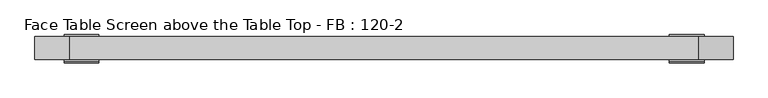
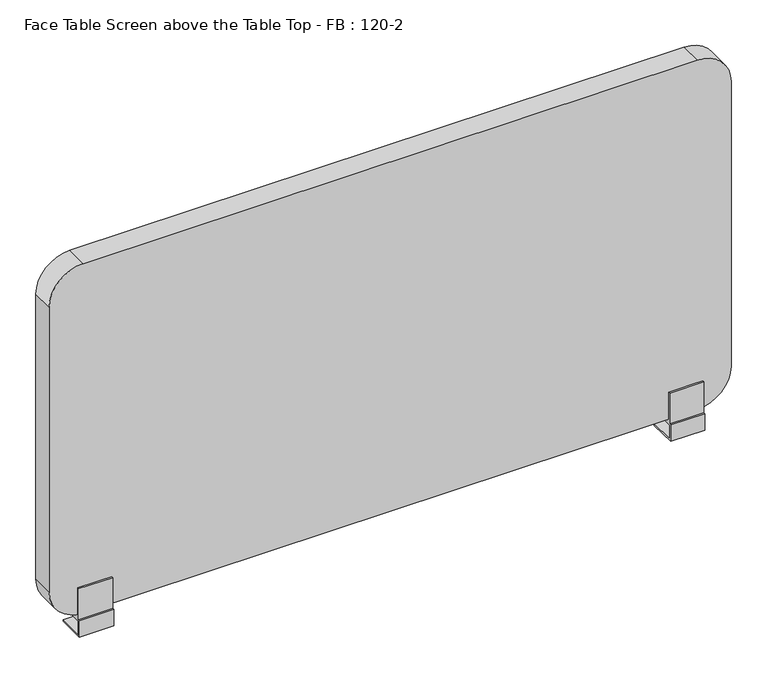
"""IFC4 building model written with IfcOpenShell, lengths in millimetres: furniture geometry, Face Table Screen above the Table Top - FB : 120-2."""

from ifc_helpers import new_model, si_unit, point, frame, frame_2d, origin, place, context, project, spatial, polyline, circle_curve, trimmed, segment, composite_curve, outline, extrude, source, transform, mapped, element, save
from ifc_brep_helpers import plane_surface, cylinder_surface, advanced_brep


def face_table_screen_above_the_table_top_fb_120_2_7e4b77b2(model_context):
    return source(origin(), model_context, "Body", "SolidModel", [
        advanced_brep(
        [(-525.0, 20.0, -39.4406633), (-515.0, 20.0, -39.4406633), (-515.0, 20.0, -28.0), (-525.0, 20.0, -28.0), (-550.0, 43.0, -25.0), (-550.0, -3.0, -25.0), (-490.0, -3.0, -25.0), (-490.0, 43.0, -25.0), (-550.0, -3.0, 0.0), (-550.0, 43.0, -28.0), (-550.0, -6.0, -28.0), (-550.0, -6.0, 3.0), (-550.0, -3.0, 3.0), (-550.0, -3.0, 60.0), (-550.0, 0.0, 60.0), (-550.0, 0.0, 10.0), (-550.0, 40.0, 10.0), (-550.0, 40.0, 60.0), (-550.0, 43.0, 60.0), (-550.0, 43.0, 0.0), (-490.0, -3.0, 0.0), (-490.0, 43.0, 0.0), (-490.0, 43.0, 60.0), (-490.0, 40.0, 60.0), (-490.0, 40.0, 10.0), (-490.0, 0.0, 10.0), (-490.0, 0.0, 60.0), (-490.0, -3.0, 60.0), (-490.0, -3.0, 3.0), (-490.0, -6.0, 3.0), (-490.0, -6.0, -28.0), (-490.0, 43.0, -28.0)],
        [
            (0, 1, circle_curve(frame((-520.0, 20.0, -39.4406633), z_axis=(0.0, 0.0, -1.0), x_axis=(1.0, 0.0, 0.0)), 5.0)),
            (1, 0, circle_curve(frame((-520.0, 20.0, -39.4406633), z_axis=(0.0, 0.0, -1.0), x_axis=(1.0, 0.0, 0.0)), 5.0)),
            (1, 2),
            (2, 3, circle_curve(frame((-520.0, 20.0, -28.0), z_axis=(0.0, 0.0, -1.0), x_axis=(1.0, 0.0, 0.0)), 5.0)),
            (3, 0),
            (3, 2, circle_curve(frame((-520.0, 20.0, -28.0), z_axis=(0.0, 0.0, -1.0), x_axis=(1.0, 0.0, 0.0)), 5.0)),
            (4, 5),
            (5, 6),
            (6, 7),
            (7, 4),
            (8, 5),
            (4, 9),
            (9, 10),
            (10, 11),
            (11, 12),
            (12, 13),
            (13, 14),
            (14, 15),
            (15, 16),
            (16, 17),
            (17, 18),
            (18, 19),
            (19, 8),
            (20, 21),
            (21, 22),
            (22, 23),
            (23, 24),
            (24, 25),
            (25, 26),
            (26, 27),
            (27, 28),
            (28, 29),
            (29, 30),
            (30, 31),
            (31, 7),
            (6, 20),
            (19, 21),
            (20, 8),
            (18, 22),
            (17, 23),
            (16, 24),
            (15, 25),
            (14, 26),
            (13, 27),
            (12, 28),
            (11, 29),
            (10, 30),
            (9, 31),
        ],
        [
            plane_surface(frame((-515.0, 20.0, -39.4406633), z_axis=(0.0, 0.0, -1.0), x_axis=(0.0, -1.0, 0.0))),
            cylinder_surface(frame((-520.0, 20.0, -39.4406633), z_axis=(0.0, 0.0, 1.0), x_axis=(1.0, 0.0, 0.0)), 5.0),
            plane_surface(frame((-515.0, 20.0, -25.0), z_axis=(0.0, 0.0, 1.0), x_axis=(0.0, 1.0, 0.0))),
            plane_surface(frame((-550.0, 43.0, 0.0), z_axis=(-1.0, 0.0, 0.0), x_axis=(0.0, -1.0, 0.0))),
            plane_surface(frame((-490.0, 43.0, 0.0), z_axis=(1.0, 0.0, 0.0), x_axis=(0.0, 1.0, 0.0))),
            plane_surface(frame((-490.0, -3.0, 0.0), z_axis=(0.0, 0.0, -1.0), x_axis=(-1.0, 0.0, 0.0))),
            plane_surface(frame((-490.0, 43.0, 0.0), z_axis=(0.0, 1.0, 0.0), x_axis=(-1.0, 0.0, 0.0))),
            plane_surface(frame((-490.0, 43.0, 60.0), z_axis=(0.0, 0.0, 1.0), x_axis=(-1.0, 0.0, 0.0))),
            plane_surface(frame((-490.0, 40.0, 60.0), z_axis=(0.0, -1.0, 0.0), x_axis=(-1.0, 0.0, 0.0))),
            plane_surface(frame((-490.0, 40.0, 10.0), z_axis=(0.0, 0.0, 1.0), x_axis=(-1.0, 0.0, 0.0))),
            plane_surface(frame((-490.0, 0.0, 10.0), z_axis=(0.0, 1.0, 0.0), x_axis=(-1.0, 0.0, 0.0))),
            plane_surface(frame((-490.0, 0.0, 60.0), z_axis=(0.0, 0.0, 1.0), x_axis=(-1.0, 0.0, 0.0))),
            plane_surface(frame((-490.0, -3.0, 60.0), z_axis=(0.0, -1.0, 0.0), x_axis=(-1.0, 0.0, 0.0))),
            plane_surface(frame((-490.0, -3.0, 3.0), z_axis=(0.0, 0.0, 1.0), x_axis=(-1.0, 0.0, 0.0))),
            plane_surface(frame((-490.0, -6.0, 3.0), z_axis=(0.0, -1.0, 0.0), x_axis=(-1.0, 0.0, 0.0))),
            plane_surface(frame((-490.0, -6.0, -28.0), z_axis=(0.0, 0.0, -1.0), x_axis=(-1.0, 0.0, 0.0))),
            plane_surface(frame((-490.0, 43.0, -28.0), z_axis=(0.0, 1.0, 0.0), x_axis=(-1.0, 0.0, 0.0))),
            plane_surface(frame((-490.0, -3.0, -25.0), z_axis=(0.0, 1.0, 0.0), x_axis=(-1.0, 0.0, 0.0))),
        ],
        [
            (0, [[1, 2]]),
            (1, [[-2, 3, 4, 5]]),
            (1, [[-1, -5, 6, -3]]),
            (2, [[7, 8, 9, 10]]),
            (3, [[11, -7, 12, 13, 14, 15, 16, 17, 18, 19, 20, 21, 22, 23]]),
            (4, [[24, 25, 26, 27, 28, 29, 30, 31, 32, 33, 34, 35, -9, 36]]),
            (5, [[-23, 37, -24, 38]]),
            (6, [[-22, 39, -25, -37]]),
            (7, [[-21, 40, -26, -39]]),
            (8, [[-20, 41, -27, -40]]),
            (9, [[-19, 42, -28, -41]]),
            (10, [[-18, 43, -29, -42]]),
            (11, [[-17, 44, -30, -43]]),
            (12, [[-16, 45, -31, -44]]),
            (13, [[-15, 46, -32, -45]]),
            (14, [[-14, 47, -33, -46]]),
            (15, [[-13, 48, -34, -47], [-4, -6]]),
            (16, [[-12, -10, -35, -48]]),
            (17, [[-11, -38, -36, -8]]),
        ],
    ),
        advanced_brep(
        [(515.0, 20.0, -39.4406633), (525.0, 20.0, -39.4406633), (525.0, 20.0, -28.0), (515.0, 20.0, -28.0), (490.0, 43.0, -25.0), (490.0, -3.0, -25.0), (550.0, -3.0, -25.0), (550.0, 43.0, -25.0), (490.0, -3.0, 0.0), (490.0, 43.0, -28.0), (490.0, -6.0, -28.0), (490.0, -6.0, 3.0), (490.0, -3.0, 3.0), (490.0, -3.0, 60.0), (490.0, 0.0, 60.0), (490.0, 0.0, 10.0), (490.0, 40.0, 10.0), (490.0, 40.0, 60.0), (490.0, 43.0, 60.0), (490.0, 43.0, 0.0), (550.0, -3.0, 0.0), (550.0, 43.0, 0.0), (550.0, 43.0, 60.0), (550.0, 40.0, 60.0), (550.0, 40.0, 10.0), (550.0, 0.0, 10.0), (550.0, 0.0, 60.0), (550.0, -3.0, 60.0), (550.0, -3.0, 3.0), (550.0, -6.0, 3.0), (550.0, -6.0, -28.0), (550.0, 43.0, -28.0)],
        [
            (0, 1, circle_curve(frame((520.0, 20.0, -39.4406633), z_axis=(0.0, 0.0, -1.0), x_axis=(1.0, 0.0, 0.0)), 5.0)),
            (1, 0, circle_curve(frame((520.0, 20.0, -39.4406633), z_axis=(0.0, 0.0, -1.0), x_axis=(1.0, 0.0, 0.0)), 5.0)),
            (1, 2),
            (2, 3, circle_curve(frame((520.0, 20.0, -28.0), z_axis=(0.0, 0.0, -1.0), x_axis=(1.0, 0.0, 0.0)), 5.0)),
            (3, 0),
            (3, 2, circle_curve(frame((520.0, 20.0, -28.0), z_axis=(0.0, 0.0, -1.0), x_axis=(1.0, 0.0, 0.0)), 5.0)),
            (4, 5),
            (5, 6),
            (6, 7),
            (7, 4),
            (8, 5),
            (4, 9),
            (9, 10),
            (10, 11),
            (11, 12),
            (12, 13),
            (13, 14),
            (14, 15),
            (15, 16),
            (16, 17),
            (17, 18),
            (18, 19),
            (19, 8),
            (20, 21),
            (21, 22),
            (22, 23),
            (23, 24),
            (24, 25),
            (25, 26),
            (26, 27),
            (27, 28),
            (28, 29),
            (29, 30),
            (30, 31),
            (31, 7),
            (6, 20),
            (19, 21),
            (20, 8),
            (18, 22),
            (17, 23),
            (16, 24),
            (15, 25),
            (14, 26),
            (13, 27),
            (12, 28),
            (11, 29),
            (10, 30),
            (9, 31),
        ],
        [
            plane_surface(frame((525.0, 20.0, -39.4406633), z_axis=(0.0, 0.0, -1.0), x_axis=(0.0, -1.0, 0.0))),
            cylinder_surface(frame((520.0, 20.0, -39.4406633), z_axis=(0.0, 0.0, 1.0), x_axis=(1.0, 0.0, 0.0)), 5.0),
            plane_surface(frame((525.0, 20.0, -25.0), z_axis=(0.0, 0.0, 1.0), x_axis=(0.0, 1.0, 0.0))),
            plane_surface(frame((490.0, 43.0, 0.0), z_axis=(-1.0, 0.0, 0.0), x_axis=(0.0, -1.0, 0.0))),
            plane_surface(frame((550.0, 43.0, 0.0), z_axis=(1.0, 0.0, 0.0), x_axis=(0.0, 1.0, 0.0))),
            plane_surface(frame((550.0, -3.0, 0.0), z_axis=(0.0, 0.0, -1.0), x_axis=(-1.0, 0.0, 0.0))),
            plane_surface(frame((550.0, 43.0, 0.0), z_axis=(0.0, 1.0, 0.0), x_axis=(-1.0, 0.0, 0.0))),
            plane_surface(frame((550.0, 43.0, 60.0), z_axis=(0.0, 0.0, 1.0), x_axis=(-1.0, 0.0, 0.0))),
            plane_surface(frame((550.0, 40.0, 60.0), z_axis=(0.0, -1.0, 0.0), x_axis=(-1.0, 0.0, 0.0))),
            plane_surface(frame((550.0, 40.0, 10.0), z_axis=(0.0, 0.0, 1.0), x_axis=(-1.0, 0.0, 0.0))),
            plane_surface(frame((550.0, 0.0, 10.0), z_axis=(0.0, 1.0, 0.0), x_axis=(-1.0, 0.0, 0.0))),
            plane_surface(frame((550.0, 0.0, 60.0), z_axis=(0.0, 0.0, 1.0), x_axis=(-1.0, 0.0, 0.0))),
            plane_surface(frame((550.0, -3.0, 60.0), z_axis=(0.0, -1.0, 0.0), x_axis=(-1.0, 0.0, 0.0))),
            plane_surface(frame((550.0, -3.0, 3.0), z_axis=(0.0, 0.0, 1.0), x_axis=(-1.0, 0.0, 0.0))),
            plane_surface(frame((550.0, -6.0, 3.0), z_axis=(0.0, -1.0, 0.0), x_axis=(-1.0, 0.0, 0.0))),
            plane_surface(frame((550.0, -6.0, -28.0), z_axis=(0.0, 0.0, -1.0), x_axis=(-1.0, 0.0, 0.0))),
            plane_surface(frame((550.0, 43.0, -28.0), z_axis=(0.0, 1.0, 0.0), x_axis=(-1.0, 0.0, 0.0))),
            plane_surface(frame((550.0, -3.0, -25.0), z_axis=(0.0, 1.0, 0.0), x_axis=(-1.0, 0.0, 0.0))),
        ],
        [
            (0, [[1, 2]]),
            (1, [[-2, 3, 4, 5]]),
            (1, [[-1, -5, 6, -3]]),
            (2, [[7, 8, 9, 10]]),
            (3, [[11, -7, 12, 13, 14, 15, 16, 17, 18, 19, 20, 21, 22, 23]]),
            (4, [[24, 25, 26, 27, 28, 29, 30, 31, 32, 33, 34, 35, -9, 36]]),
            (5, [[-23, 37, -24, 38]]),
            (6, [[-22, 39, -25, -37]]),
            (7, [[-21, 40, -26, -39]]),
            (8, [[-20, 41, -27, -40]]),
            (9, [[-19, 42, -28, -41]]),
            (10, [[-18, 43, -29, -42]]),
            (11, [[-17, 44, -30, -43]]),
            (12, [[-16, 45, -31, -44]]),
            (13, [[-15, 46, -32, -45]]),
            (14, [[-14, 47, -33, -46]]),
            (15, [[-13, 48, -34, -47], [-4, -6]]),
            (16, [[-12, -10, -35, -48]]),
            (17, [[-11, -38, -36, -8]]),
        ],
    ),
        extrude(outline(composite_curve([segment(polyline([(660.0, 540.0), (660.0, -540.0)]), True, "CONTINUOUS"), segment(trimmed(circle_curve(frame_2d((600.0, -540.0)), 60.0), [point((660.0, -540.0))], [point((600.0, -600.0))], False, "CARTESIAN"), True, "CONTINUOUS"), segment(polyline([(600.0, -600.0), (70.0, -600.0)]), True, "CONTINUOUS"), segment(trimmed(circle_curve(frame_2d((70.0, -540.0)), 60.0), [point((70.0, -600.0))], [point((10.0, -540.0))], False, "CARTESIAN"), True, "CONTINUOUS"), segment(polyline([(10.0, -540.0), (10.0, 540.0)]), True, "CONTINUOUS"), segment(trimmed(circle_curve(frame_2d((70.0, 540.0)), 60.0), [point((10.0, 540.0))], [point((70.0, 600.0))], False, "CARTESIAN"), True, "CONTINUOUS"), segment(polyline([(70.0, 600.0), (600.0, 600.0)]), True, "CONTINUOUS"), segment(trimmed(circle_curve(frame_2d((600.0, 540.0)), 60.0), [point((600.0, 600.0))], [point((660.0, 540.0))], False, "CARTESIAN"), True, "CONTINUOUS")], self_intersect=False)), frame((0.0, 0.0, 0.0), z_axis=(0.0, 1.0, 0.0), x_axis=(0.0, 0.0, 1.0)), (0.0, 0.0, 1.0), 40.0),
    ])


if __name__ == "__main__":
    model = new_model("IFC4")
    model_context = context("Model", 3, world=origin())
    ifc_project = project(units=[si_unit("LENGTHUNIT", "METRE", prefix="MILLI")], contexts=[model_context])
    site = spatial("IfcSite", under=ifc_project)
    building = spatial("IfcBuilding", under=site)
    placement = place(None, origin())
    face_table_screen_above_the_table_top_fb_120_2_shape = face_table_screen_above_the_table_top_fb_120_2_7e4b77b2(model_context)
    element("IfcFurniture", 1, ObjectType="Face Table Screen above the Table Top - FB : 120-2", at=placement, inside=building, context=model_context, shape_type="MappedRepresentation", body=[
        mapped(face_table_screen_above_the_table_top_fb_120_2_shape, transform((0.0, 0.0, 0.0), x_axis=(1.0, 0.0, 0.0), y_axis=(0.0, 1.0, 0.0), z_axis=(0.0, 0.0, 1.0))),
    ])
    save(model, "model.ifc")
